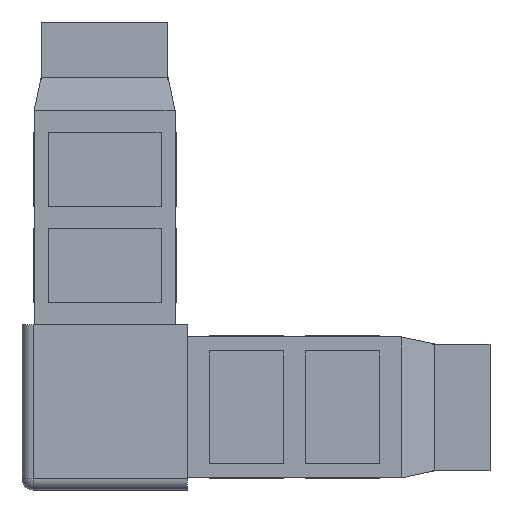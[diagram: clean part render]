
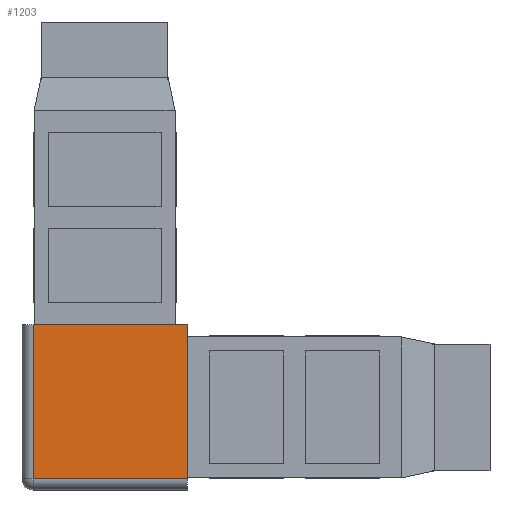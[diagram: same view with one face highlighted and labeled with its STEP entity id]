
A CAD part, left-side view. The second image highlights one B-rep face of the part: STEP entity #1203.
In plain terms, the highlighted planar face has unit normal (-1, 0, 0).
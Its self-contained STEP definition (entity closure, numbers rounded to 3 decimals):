
#5 = CARTESIAN_POINT ( 'NONE',  ( -15., -15., -13. ) ) ;
#15 = ORIENTED_EDGE ( 'NONE', *, *, #1953, .F. ) ;
#41 = DIRECTION ( 'NONE',  ( 0., -1., 0. ) ) ;
#197 = ORIENTED_EDGE ( 'NONE', *, *, #3680, .F. ) ;
#203 = ORIENTED_EDGE ( 'NONE', *, *, #391, .T. ) ;
#274 = ORIENTED_EDGE ( 'NONE', *, *, #1309, .T. ) ;
#285 = LINE ( 'NONE', #5, #1914 ) ;
#391 = EDGE_CURVE ( 'NONE', #1036, #2838, #2976, .T. ) ;
#401 = CARTESIAN_POINT ( 'NONE',  ( -15., 13., 15. ) ) ;
#574 = CARTESIAN_POINT ( 'NONE',  ( -15., 13., -13. ) ) ;
#857 = CARTESIAN_POINT ( 'NONE',  ( -15., -15., 15. ) ) ;
#859 = LINE ( 'NONE', #1354, #1689 ) ;
#873 = VERTEX_POINT ( 'NONE', #1175 ) ;
#1036 = VERTEX_POINT ( 'NONE', #401 ) ;
#1175 = CARTESIAN_POINT ( 'NONE',  ( -15., -15., 15. ) ) ;
#1203 = ADVANCED_FACE ( 'NONE', ( #3893 ), #1216, .F. ) ;
#1215 = EDGE_LOOP ( 'NONE', ( #203, #274, #197, #15 ) ) ;
#1216 = PLANE ( 'NONE',  #1677 ) ;
#1309 = EDGE_CURVE ( 'NONE', #2838, #2587, #285, .T. ) ;
#1354 = CARTESIAN_POINT ( 'NONE',  ( -15., 15., 15. ) ) ;
#1589 = LINE ( 'NONE', #857, #3190 ) ;
#1677 = AXIS2_PLACEMENT_3D ( 'NONE', #3333, #2739, #3047 ) ;
#1689 = VECTOR ( 'NONE', #3476, 1000. ) ;
#1914 = VECTOR ( 'NONE', #41, 1000. ) ;
#1953 = EDGE_CURVE ( 'NONE', #1036, #873, #859, .T. ) ;
#2294 = CARTESIAN_POINT ( 'NONE',  ( -15., -15., -13. ) ) ;
#2314 = DIRECTION ( 'NONE',  ( 0., 0., -1. ) ) ;
#2544 = CARTESIAN_POINT ( 'NONE',  ( -15., 13., 15. ) ) ;
#2587 = VERTEX_POINT ( 'NONE', #2294 ) ;
#2674 = DIRECTION ( 'NONE',  ( 0., 0., -1. ) ) ;
#2739 = DIRECTION ( 'NONE',  ( 1., 0., 0. ) ) ;
#2838 = VERTEX_POINT ( 'NONE', #574 ) ;
#2976 = LINE ( 'NONE', #2544, #3702 ) ;
#3047 = DIRECTION ( 'NONE',  ( 0., 1., 0. ) ) ;
#3190 = VECTOR ( 'NONE', #2674, 1000. ) ;
#3333 = CARTESIAN_POINT ( 'NONE',  ( -15., 15., 15. ) ) ;
#3476 = DIRECTION ( 'NONE',  ( 0., -1., 0. ) ) ;
#3680 = EDGE_CURVE ( 'NONE', #873, #2587, #1589, .T. ) ;
#3702 = VECTOR ( 'NONE', #2314, 1000. ) ;
#3893 = FACE_OUTER_BOUND ( 'NONE', #1215, .T. ) ;
